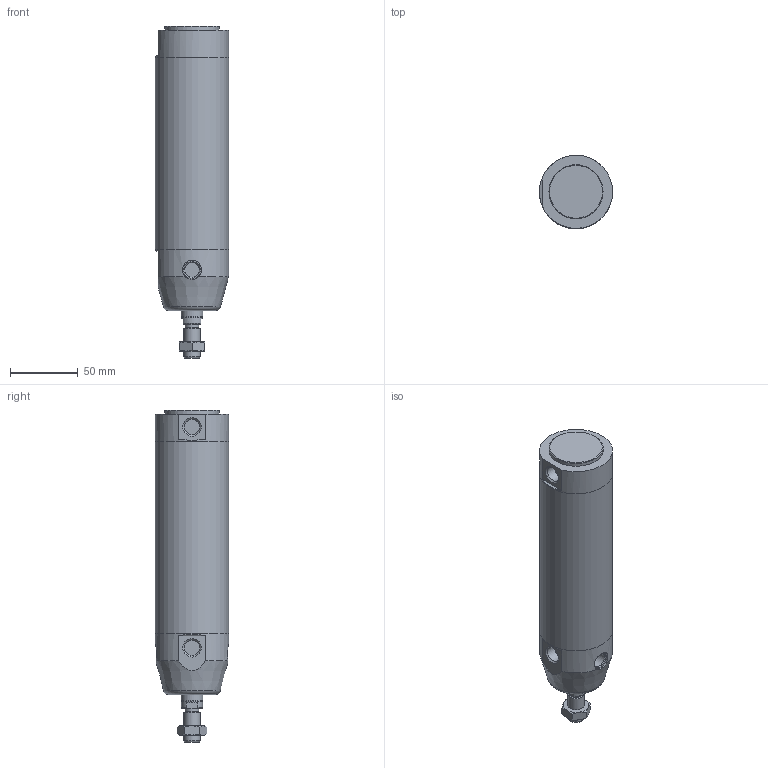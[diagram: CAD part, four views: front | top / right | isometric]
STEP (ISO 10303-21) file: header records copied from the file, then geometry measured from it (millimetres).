
FILE_DESCRIPTION(/* description */ (''),/* implementation_level */ '2;1');
FILE_NAME(/* name */ 'I:\Area Tecnica\Documenti\A-Manieri\_Inventor\12X\12X#E_###_####_#_#\12XAE_050_0100_#_#.stp',/* time_stamp */ '2015-05-08T13:40:23+02:00',/* author */ ('maniean1'),/* organization */ ('Pneumax S.p.A.'),/* preprocessor_version */ 'ST-DEVELOPER v15.2',/* originating_system */ 'Autodesk Inventor 2014',/* authorisation */ '');
FILE_SCHEMA (('AUTOMOTIVE_DESIGN { 1 0 10303 214 3 1 1 }'));
Length unit declared in the file: millimetre
Products named in the file (6): C1250_619-0100; 12X50_622; S12X50_0100; 12X_50_11; 12X50_611; 12XAE_050_0100_#_#
Bounding box: 54 x 54 x 245 mm (x, y, z)
Volume: 291478 mm3; surface area: 89282.8 mm2
Topology: 5 solids, 5 shells, 65 faces, 132 edges, 84 vertices
Faces by surface type: plane 33, cylinder 18, cone 13, torus 1
Full cylindrical faces by diameter (mm): 10.2 x1, 10.9 x2, 11.4 x2, 12 x2, 14 x1, 14.1 x2, 15.6 x1, 16 x1, 40 x1, 50 x2, 54 x3
Entity records: 1691 total; most frequent: CARTESIAN_POINT 368, DIRECTION 279, ORIENTED_EDGE 190, AXIS2_PLACEMENT_3D 129, EDGE_LOOP 108, EDGE_CURVE 95, VERTEX_POINT 77, ADVANCED_FACE 65
